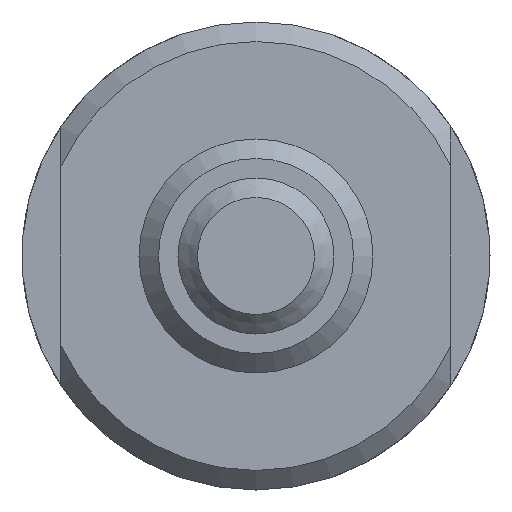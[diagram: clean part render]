
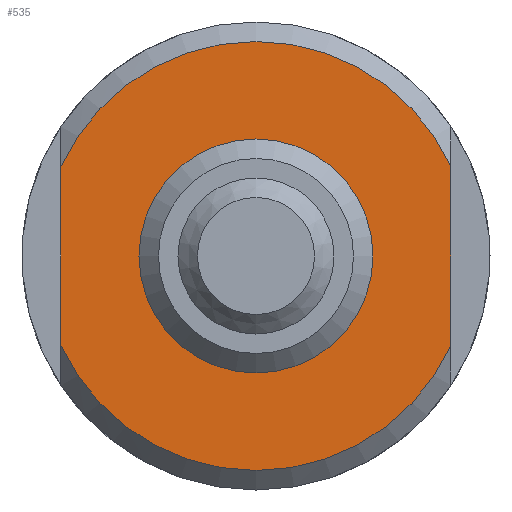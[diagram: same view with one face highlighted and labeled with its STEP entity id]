
A CAD part, left-side view. The second image highlights one B-rep face of the part: STEP entity #535.
In plain terms, the highlighted planar face has unit normal (-1, 0, 0).
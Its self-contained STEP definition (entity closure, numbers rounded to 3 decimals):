
#68=LINE('',#964,#84);
#69=LINE('',#965,#85);
#84=VECTOR('',#789,1000.);
#85=VECTOR('',#790,1000.);
#167=ORIENTED_EDGE('',*,*,#250,.F.);
#168=ORIENTED_EDGE('',*,*,#238,.F.);
#169=ORIENTED_EDGE('',*,*,#251,.T.);
#170=ORIENTED_EDGE('',*,*,#240,.F.);
#171=ORIENTED_EDGE('',*,*,#252,.T.);
#238=EDGE_CURVE('',#292,#290,#334,.T.);
#240=EDGE_CURVE('',#293,#295,#335,.T.);
#250=EDGE_CURVE('',#290,#293,#68,.T.);
#251=EDGE_CURVE('',#292,#295,#69,.T.);
#252=EDGE_CURVE('',#302,#302,#340,.T.);
#290=VERTEX_POINT('',#926);
#292=VERTEX_POINT('',#933);
#293=VERTEX_POINT('',#940);
#295=VERTEX_POINT('',#943);
#302=VERTEX_POINT('',#967);
#334=CIRCLE('',#625,5.5);
#335=CIRCLE('',#627,5.5);
#340=CIRCLE('',#634,3.);
#396=EDGE_LOOP('',(#167,#168,#169,#170));
#397=EDGE_LOOP('',(#171));
#466=FACE_BOUND('',#396,.T.);
#467=FACE_BOUND('',#397,.T.);
#500=PLANE('',#633);
#535=ADVANCED_FACE('',(#466,#467),#500,.F.);
#625=AXIS2_PLACEMENT_3D('',#934,#767,#768);
#627=AXIS2_PLACEMENT_3D('',#942,#771,#772);
#633=AXIS2_PLACEMENT_3D('',#963,#787,#788);
#634=AXIS2_PLACEMENT_3D('',#966,#791,#792);
#767=DIRECTION('',(1.,0.,0.));
#768=DIRECTION('',(0.,0.,-1.));
#771=DIRECTION('',(1.,0.,0.));
#772=DIRECTION('',(0.,0.,-1.));
#787=DIRECTION('',(1.,0.,0.));
#788=DIRECTION('',(0.,0.,-1.));
#789=DIRECTION('',(0.,0.,-1.));
#790=DIRECTION('',(0.,0.,-1.));
#791=DIRECTION('',(1.,0.,0.));
#792=DIRECTION('',(0.,0.,-1.));
#926=CARTESIAN_POINT('',(0.,-5.,2.291));
#933=CARTESIAN_POINT('',(0.,5.,2.291));
#934=CARTESIAN_POINT('',(0.,0.,0.));
#940=CARTESIAN_POINT('',(0.,-5.,-2.291));
#942=CARTESIAN_POINT('',(0.,0.,0.));
#943=CARTESIAN_POINT('',(0.,5.,-2.291));
#963=CARTESIAN_POINT('',(0.,0.,0.));
#964=CARTESIAN_POINT('',(0.,-5.,5.));
#965=CARTESIAN_POINT('',(0.,5.,5.));
#966=CARTESIAN_POINT('',(0.,0.,0.));
#967=CARTESIAN_POINT('',(0.,0.,-3.));
